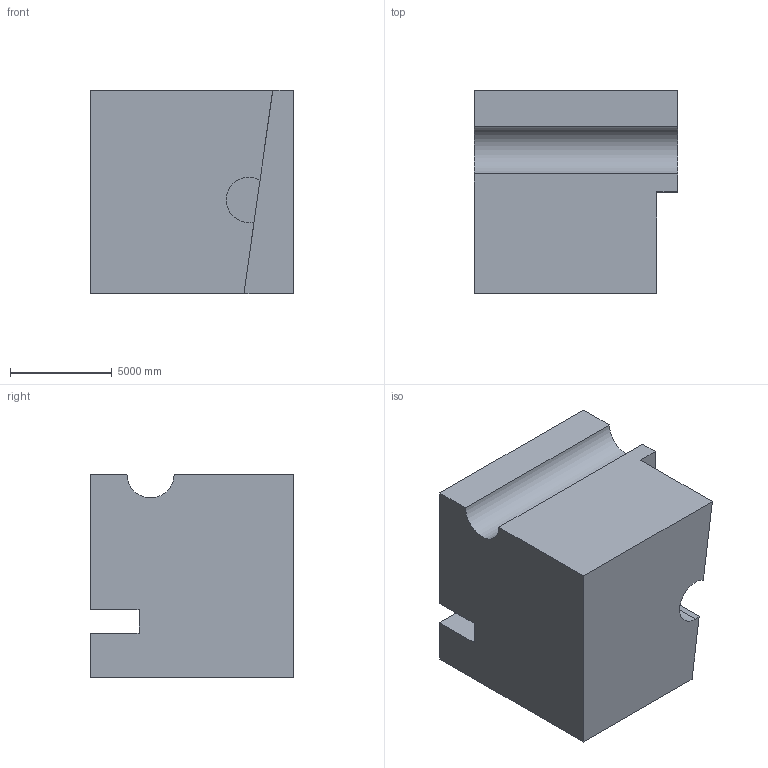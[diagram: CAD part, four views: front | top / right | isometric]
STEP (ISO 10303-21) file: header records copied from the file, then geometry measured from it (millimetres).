
FILE_DESCRIPTION (( 'STEP AP203' ), '1' );
FILE_NAME ('503.STEP', '2022-07-29T11:32:49', ( 'user' ), ( '' ), 'SwSTEP 2.0', 'SolidWorks 2021', '' );
FILE_SCHEMA (( 'CONFIG_CONTROL_DESIGN' ));
Length unit declared in the file: centimetre
Products named in the file (1): 503
Bounding box: 10000 x 10000 x 10000 mm (x, y, z)
Volume: 819572042474.3 mm3; surface area: 660144190.3 mm2
Topology: 1 solids, 1 shells, 34 faces, 96 edges, 64 vertices
Faces by surface type: plane 25, cylinder 9
Entity records: 1173 total; most frequent: CARTESIAN_POINT 207, ORIENTED_EDGE 192, DIRECTION 178, EDGE_CURVE 96, VECTOR 76, LINE 76, VERTEX_POINT 64, AXIS2_PLACEMENT_3D 51
